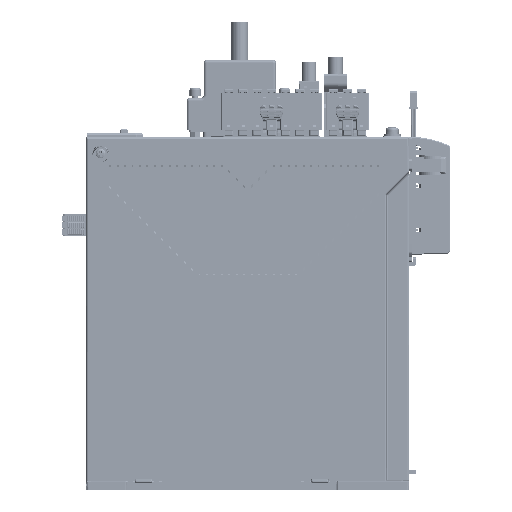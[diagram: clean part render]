
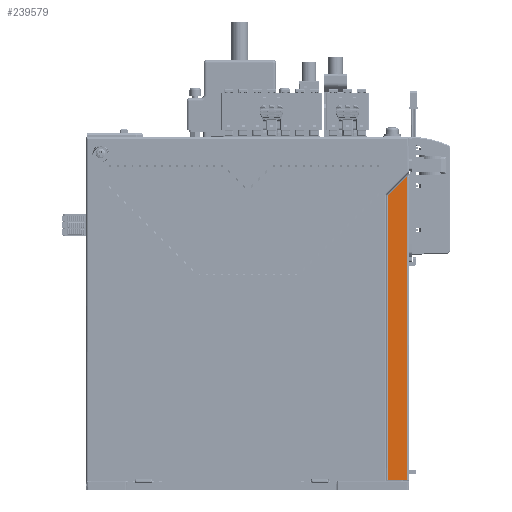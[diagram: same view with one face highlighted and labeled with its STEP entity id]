
A CAD part, left-side view. The second image highlights one B-rep face of the part: STEP entity #239579.
In plain terms, the highlighted planar face has unit normal (-1, 0, 0).
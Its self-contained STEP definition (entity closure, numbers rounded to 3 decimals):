
#131967=CARTESIAN_POINT('',(-48.5,-74.,
-180.766));
#131969=DIRECTION('',(0.,-1.,0.));
#131970=VECTOR('',#131969,10.);
#131971=CARTESIAN_POINT('',(-48.5,-74.,-180.766));
#131972=LINE('',#131971,#131970);
#145379=DIRECTION('',(0.,-0.707,0.707));
#145380=VECTOR('',#145379,14.142);
#145381=CARTESIAN_POINT('',(-48.5,-74.,-30.95));
#145382=LINE('',#145381,#145380);
#145387=DIRECTION('',(0.,0.,-1.));
#145388=VECTOR('',#145387,149.817);
#145389=CARTESIAN_POINT('',(-48.5,-74.,-30.95));
#145390=LINE('',#145389,#145388);
#145391=DIRECTION('',(0.,0.,1.));
#145392=VECTOR('',#145391,159.817);
#145393=CARTESIAN_POINT('',(-48.5,-84.,-180.766));
#145394=LINE('',#145393,#145392);
#209351=VERTEX_POINT('',#131967);
#209352=CARTESIAN_POINT('',(-48.5,-84.,-180.766));
#209353=VERTEX_POINT('',#209352);
#209354=CARTESIAN_POINT('',(-48.5,-74.,-30.95));
#209355=VERTEX_POINT('',#209354);
#209857=CARTESIAN_POINT('',(-48.5,-84.,-20.95));
#209858=VERTEX_POINT('',#209857);
#239566=CARTESIAN_POINT('',(-48.5,-79.,-100.858));
#239567=DIRECTION('',(1.,0.,0.));
#239568=DIRECTION('',(0.,0.,1.));
#239569=AXIS2_PLACEMENT_3D('',#239566,#239567,#239568);
#239570=PLANE('',#239569);
#239572=ORIENTED_EDGE('',*,*,#239571,.F.);
#239573=ORIENTED_EDGE('',*,*,#239549,.T.);
#239575=ORIENTED_EDGE('',*,*,#239574,.F.);
#239576=ORIENTED_EDGE('',*,*,#218894,.F.);
#239577=EDGE_LOOP('',(#239572,#239573,#239575,#239576));
#239578=FACE_OUTER_BOUND('',#239577,.F.);
#218894=EDGE_CURVE('',#209351,#209353,#131972,.T.);
#239549=EDGE_CURVE('',#209355,#209858,#145382,.T.);
#239571=EDGE_CURVE('',#209355,#209351,#145390,.T.);
#239574=EDGE_CURVE('',#209353,#209858,#145394,.T.);
#239579=ADVANCED_FACE('',(#239578),#239570,.F.);
